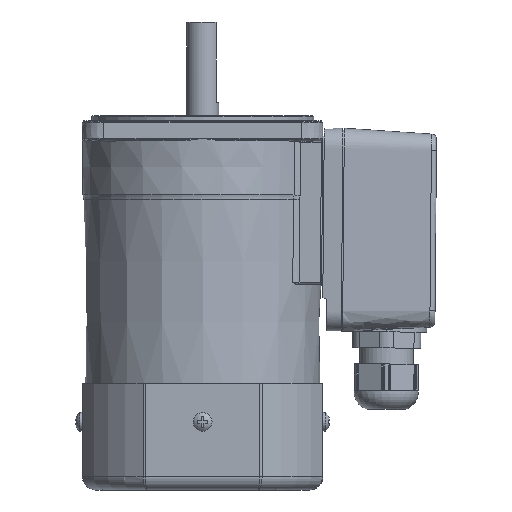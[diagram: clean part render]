
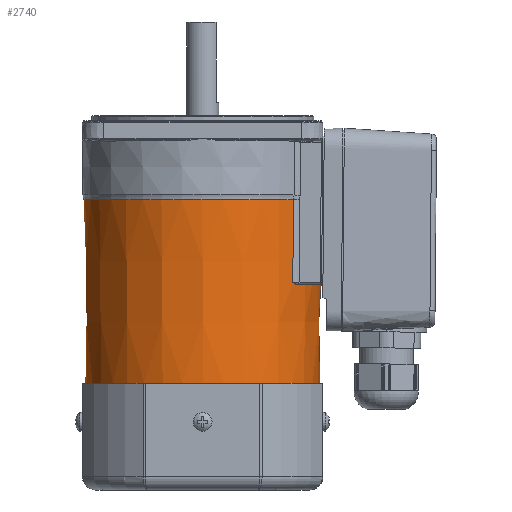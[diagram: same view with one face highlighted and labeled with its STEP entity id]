
A CAD part, left-side view. The second image highlights one B-rep face of the part: STEP entity #2740.
In plain terms, the highlighted conical face has half-angle 0.54 degrees and reference radius 44.5 mm.
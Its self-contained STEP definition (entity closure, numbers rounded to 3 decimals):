
#37 = DIRECTION ( 'NONE',  ( 0., 0., 1. ) ) ;
#357 = CARTESIAN_POINT ( 'NONE',  ( 43.854, 0., -97.5 ) ) ;
#368 = CARTESIAN_POINT ( 'NONE',  ( -28.832, -33.897, -28.934 ) ) ;
#437 = VERTEX_POINT ( 'NONE', #3855 ) ;
#442 = EDGE_CURVE ( 'NONE', #7205, #437, #16396, .T. ) ;
#812 = CARTESIAN_POINT ( 'NONE',  ( 28.566, -33.738, -60.005 ) ) ;
#1176 = CARTESIAN_POINT ( 'NONE',  ( -27.215, -34.831, -60.5 ) ) ;
#1460 = CARTESIAN_POINT ( 'NONE',  ( -27.8, -34.368, -60.382 ) ) ;
#1733 = CIRCLE ( 'NONE', #4761, 44.5 ) ;
#2009 = DIRECTION ( 'NONE',  ( -1., 0., 0. ) ) ;
#2059 = CARTESIAN_POINT ( 'NONE',  ( -28.597, -33.757, -56.335 ) ) ;
#2229 = DIRECTION ( 'NONE',  ( 0., 0., -1. ) ) ;
#2432 = EDGE_LOOP ( 'NONE', ( #9010 ) ) ;
#2490 = CARTESIAN_POINT ( 'NONE',  ( 27.336, -34.737, -60.5 ) ) ;
#2491 = EDGE_CURVE ( 'NONE', #11202, #3824, #11101, .T. ) ;
#2518 = AXIS2_PLACEMENT_3D ( 'NONE', #17825, #37, #14556 ) ;
#2594 = CARTESIAN_POINT ( 'NONE',  ( 27.454, -34.644, -60.481 ) ) ;
#2637 = CARTESIAN_POINT ( 'NONE',  ( 4.467, -43.976, -60.5 ) ) ;
#2740 = ADVANCED_FACE ( 'NONE', ( #19405, #14455 ), #11582, .T. ) ;
#2765 = ORIENTED_EDGE ( 'NONE', *, *, #2491, .T. ) ;
#2811 = B_SPLINE_CURVE_WITH_KNOTS ( 'NONE', 3,
 ( #8809, #8395, #2059, #15233, #10076, #8489, #12476 ),
 .UNSPECIFIED., .F., .F.,
 ( 4, 3, 4 ),
 ( 0., 0.006, 0.032 ),
 .UNSPECIFIED. ) ;
#2863 = EDGE_CURVE ( 'NONE', #13289, #13289, #14609, .T. ) ;
#3076 = ORIENTED_EDGE ( 'NONE', *, *, #4554, .T. ) ;
#3528 = ORIENTED_EDGE ( 'NONE', *, *, #20004, .T. ) ;
#3824 = VERTEX_POINT ( 'NONE', #12940 ) ;
#3855 = CARTESIAN_POINT ( 'NONE',  ( 27.215, -34.831, -60.5 ) ) ;
#4127 = CARTESIAN_POINT ( 'NONE',  ( 4.467, -43.976, -60.5 ) ) ;
#4417 = CARTESIAN_POINT ( 'NONE',  ( -3.724, -44.052, -60.5 ) ) ;
#4554 = EDGE_CURVE ( 'NONE', #20072, #11202, #11580, .T. ) ;
#4726 = CARTESIAN_POINT ( 'NONE',  ( -27.685, -34.46, -60.422 ) ) ;
#4761 = AXIS2_PLACEMENT_3D ( 'NONE', #4820, #9556, #17358 ) ;
#4820 = CARTESIAN_POINT ( 'NONE',  ( 0., 0., -28.934 ) ) ;
#4944 = CARTESIAN_POINT ( 'NONE',  ( -4.467, -43.976, -60.5 ) ) ;
#5036 = CARTESIAN_POINT ( 'NONE',  ( -28.353, -33.917, -60.122 ) ) ;
#5381 = CARTESIAN_POINT ( 'NONE',  ( 0., 0., -97.5 ) ) ;
#5688 = EDGE_CURVE ( 'NONE', #3824, #14237, #2811, .T. ) ;
#5739 = CARTESIAN_POINT ( 'NONE',  ( 27.685, -34.46, -60.422 ) ) ;
#5862 = AXIS2_PLACEMENT_3D ( 'NONE', #5381, #10442, #18230 ) ;
#5992 = B_SPLINE_CURVE_WITH_KNOTS ( 'NONE', 3,
 ( #2637, #6310, #13998, #19056, #9060, #10958, #5998, #15476, #4417, #20321 ),
 .UNSPECIFIED., .F., .F.,
 ( 4, 2, 2, 2, 4 ),
 ( 0., 0.002, 0.004, 0.007, 0.009 ),
 .UNSPECIFIED. ) ;
#5998 = CARTESIAN_POINT ( 'NONE',  ( -1.492, -44.184, -60.457 ) ) ;
#6300 = CARTESIAN_POINT ( 'NONE',  ( -27.336, -34.737, -60.5 ) ) ;
#6310 = CARTESIAN_POINT ( 'NONE',  ( 3.724, -44.052, -60.5 ) ) ;
#6352 = EDGE_CURVE ( 'NONE', #437, #15355, #16061, .T. ) ;
#6869 = CARTESIAN_POINT ( 'NONE',  ( 0., 0., -60.5 ) ) ;
#6984 = CARTESIAN_POINT ( 'NONE',  ( 28.815, -33.887, -30.934 ) ) ;
#7205 = VERTEX_POINT ( 'NONE', #14620 ) ;
#7228 = CARTESIAN_POINT ( 'NONE',  ( 28.352, -33.918, -60.123 ) ) ;
#7338 = CARTESIAN_POINT ( 'NONE',  ( 0., 0., -60.5 ) ) ;
#8395 = CARTESIAN_POINT ( 'NONE',  ( -28.581, -33.748, -58.17 ) ) ;
#8489 = CARTESIAN_POINT ( 'NONE',  ( -28.759, -33.854, -37.456 ) ) ;
#8682 = ORIENTED_EDGE ( 'NONE', *, *, #5688, .T. ) ;
#8809 = CARTESIAN_POINT ( 'NONE',  ( -28.566, -33.738, -60.005 ) ) ;
#9010 = ORIENTED_EDGE ( 'NONE', *, *, #2863, .T. ) ;
#9023 = CARTESIAN_POINT ( 'NONE',  ( 27.215, -34.831, -60.5 ) ) ;
#9060 = CARTESIAN_POINT ( 'NONE',  ( 0.746, -44.203, -60.446 ) ) ;
#9231 = AXIS2_PLACEMENT_3D ( 'NONE', #7338, #18591, #10610 ) ;
#9461 = EDGE_CURVE ( 'NONE', #14237, #20040, #1733, .T. ) ;
#9556 = DIRECTION ( 'NONE',  ( 0., 0., -1. ) ) ;
#9860 = EDGE_CURVE ( 'NONE', #20040, #7205, #17378, .T. ) ;
#9938 = CARTESIAN_POINT ( 'NONE',  ( 28.709, -33.824, -43.291 ) ) ;
#10076 = CARTESIAN_POINT ( 'NONE',  ( -28.686, -33.81, -45.978 ) ) ;
#10128 = CARTESIAN_POINT ( 'NONE',  ( 28.566, -33.738, -60.005 ) ) ;
#10386 = CARTESIAN_POINT ( 'NONE',  ( 28.136, -34.096, -60.241 ) ) ;
#10442 = DIRECTION ( 'NONE',  ( 0., 0., 1. ) ) ;
#10610 = DIRECTION ( 'NONE',  ( -1., 0., 0. ) ) ;
#10831 = ORIENTED_EDGE ( 'NONE', *, *, #9461, .T. ) ;
#10958 = CARTESIAN_POINT ( 'NONE',  ( -0.746, -44.203, -60.446 ) ) ;
#11101 = B_SPLINE_CURVE_WITH_KNOTS ( 'NONE', 3,
 ( #14406, #6300, #13115, #4726, #1460, #20828, #5036, #12926 ),
 .UNSPECIFIED., .F., .F.,
 ( 4, 2, 2, 4 ),
 ( 0., 0., 0.001, 0.002 ),
 .UNSPECIFIED. ) ;
#11202 = VERTEX_POINT ( 'NONE', #1176 ) ;
#11504 = CARTESIAN_POINT ( 'NONE',  ( 28.797, -33.877, -32.934 ) ) ;
#11580 = CIRCLE ( 'NONE', #9231, 44.203 ) ;
#11582 = CONICAL_SURFACE ( 'NONE', #2518, 44.5, 0.009 ) ;
#12476 = CARTESIAN_POINT ( 'NONE',  ( -28.832, -33.897, -28.934 ) ) ;
#12926 = CARTESIAN_POINT ( 'NONE',  ( -28.566, -33.738, -60.005 ) ) ;
#12940 = CARTESIAN_POINT ( 'NONE',  ( -28.566, -33.738, -60.005 ) ) ;
#13115 = CARTESIAN_POINT ( 'NONE',  ( -27.454, -34.644, -60.481 ) ) ;
#13289 = VERTEX_POINT ( 'NONE', #357 ) ;
#13480 = CARTESIAN_POINT ( 'NONE',  ( 28.637, -33.781, -51.648 ) ) ;
#13998 = CARTESIAN_POINT ( 'NONE',  ( 2.98, -44.109, -60.484 ) ) ;
#14237 = VERTEX_POINT ( 'NONE', #368 ) ;
#14406 = CARTESIAN_POINT ( 'NONE',  ( -27.215, -34.831, -60.5 ) ) ;
#14455 = FACE_OUTER_BOUND ( 'NONE', #18258, .T. ) ;
#14556 = DIRECTION ( 'NONE',  ( 1., 0., 0. ) ) ;
#14609 = CIRCLE ( 'NONE', #5862, 43.854 ) ;
#14620 = CARTESIAN_POINT ( 'NONE',  ( 28.566, -33.738, -60.005 ) ) ;
#14980 = CARTESIAN_POINT ( 'NONE',  ( 28.832, -33.897, -28.934 ) ) ;
#15233 = CARTESIAN_POINT ( 'NONE',  ( -28.613, -33.767, -54.501 ) ) ;
#15355 = VERTEX_POINT ( 'NONE', #4127 ) ;
#15413 = ORIENTED_EDGE ( 'NONE', *, *, #9860, .T. ) ;
#15476 = CARTESIAN_POINT ( 'NONE',  ( -2.981, -44.108, -60.484 ) ) ;
#15585 = CARTESIAN_POINT ( 'NONE',  ( 28.832, -33.897, -28.934 ) ) ;
#15979 = ORIENTED_EDGE ( 'NONE', *, *, #6352, .T. ) ;
#16061 = CIRCLE ( 'NONE', #19420, 44.203 ) ;
#16396 = B_SPLINE_CURVE_WITH_KNOTS ( 'NONE', 3,
 ( #812, #7228, #10386, #20069, #5739, #2594, #2490, #9023 ),
 .UNSPECIFIED., .F., .F.,
 ( 4, 2, 2, 4 ),
 ( 0., 0.001, 0.001, 0.002 ),
 .UNSPECIFIED. ) ;
#17358 = DIRECTION ( 'NONE',  ( -1., 0., 0. ) ) ;
#17378 = B_SPLINE_CURVE_WITH_KNOTS ( 'NONE', 3,
 ( #14980, #6984, #11504, #19505, #9938, #13480, #10128 ),
 .UNSPECIFIED., .F., .F.,
 ( 4, 3, 4 ),
 ( 0., 0.006, 0.031 ),
 .UNSPECIFIED. ) ;
#17825 = CARTESIAN_POINT ( 'NONE',  ( 0., 0., -28.934 ) ) ;
#18230 = DIRECTION ( 'NONE',  ( 1., 0., 0. ) ) ;
#18258 = EDGE_LOOP ( 'NONE', ( #15413, #20402, #15979, #3528, #3076, #2765, #8682, #10831 ) ) ;
#18591 = DIRECTION ( 'NONE',  ( 0., 0., -1. ) ) ;
#19056 = CARTESIAN_POINT ( 'NONE',  ( 1.491, -44.184, -60.457 ) ) ;
#19405 = FACE_BOUND ( 'NONE', #2432, .T. ) ;
#19420 = AXIS2_PLACEMENT_3D ( 'NONE', #6869, #2229, #2009 ) ;
#19505 = CARTESIAN_POINT ( 'NONE',  ( 28.78, -33.866, -34.934 ) ) ;
#20004 = EDGE_CURVE ( 'NONE', #15355, #20072, #5992, .T. ) ;
#20040 = VERTEX_POINT ( 'NONE', #15585 ) ;
#20069 = CARTESIAN_POINT ( 'NONE',  ( 27.799, -34.368, -60.382 ) ) ;
#20072 = VERTEX_POINT ( 'NONE', #4944 ) ;
#20321 = CARTESIAN_POINT ( 'NONE',  ( -4.467, -43.976, -60.5 ) ) ;
#20402 = ORIENTED_EDGE ( 'NONE', *, *, #442, .T. ) ;
#20828 = CARTESIAN_POINT ( 'NONE',  ( -28.136, -34.096, -60.241 ) ) ;
